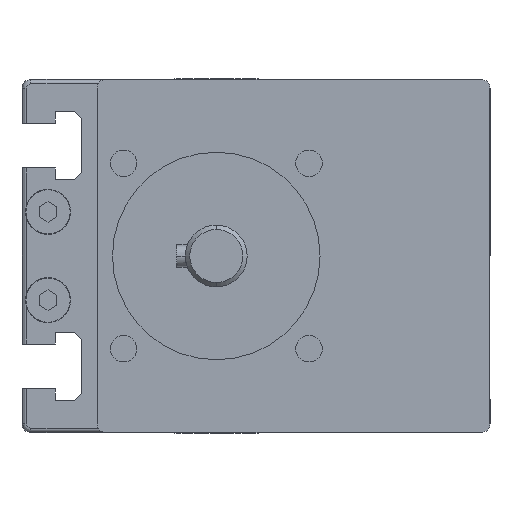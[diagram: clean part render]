
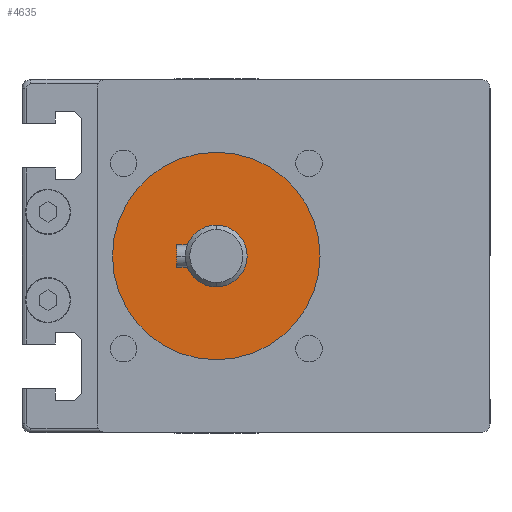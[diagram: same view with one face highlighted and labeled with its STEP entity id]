
A CAD part, left-side view. The second image highlights one B-rep face of the part: STEP entity #4635.
In plain terms, the highlighted planar face has unit normal (-1, 0, 0) as drawn and (1, 0, 0) by its records, which use the part's own axes.
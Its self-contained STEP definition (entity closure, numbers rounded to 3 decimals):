
#306 = PLANE ( 'NONE',  #4630 ) ;
#418 = CARTESIAN_POINT ( 'NONE',  ( -2., 0., 0. ) ) ;
#1428 = CIRCLE ( 'NONE', #8072, 23.5 ) ;
#1624 = VERTEX_POINT ( 'NONE', #7636 ) ;
#1814 = FACE_BOUND ( 'NONE', #8535, .T. ) ;
#1881 = CIRCLE ( 'NONE', #8551, 7. ) ;
#2269 = VERTEX_POINT ( 'NONE', #2500 ) ;
#2500 = CARTESIAN_POINT ( 'NONE',  ( -2., 0., -7. ) ) ;
#2974 = FACE_OUTER_BOUND ( 'NONE', #3819, .T. ) ;
#3054 = CIRCLE ( 'NONE', #6361, 7. ) ;
#3819 = EDGE_LOOP ( 'NONE', ( #6389, #6286 ) ) ;
#3860 = CARTESIAN_POINT ( 'NONE',  ( -2., 0., 23.5 ) ) ;
#4630 = AXIS2_PLACEMENT_3D ( 'NONE', #418, #6125, #6077 ) ;
#4635 = ADVANCED_FACE ( 'NONE', ( #2974, #1814 ), #306, .T. ) ;
#5336 = ORIENTED_EDGE ( 'NONE', *, *, #5655, .F. ) ;
#5495 = DIRECTION ( 'NONE',  ( 0., 0., -1. ) ) ;
#5503 = DIRECTION ( 'NONE',  ( 1., 0., 0. ) ) ;
#5655 = EDGE_CURVE ( 'NONE', #2269, #1624, #1881, .T. ) ;
#5746 = EDGE_CURVE ( 'NONE', #9116, #6163, #1428, .T. ) ;
#5846 = CARTESIAN_POINT ( 'NONE',  ( -2., 0., 0. ) ) ;
#5897 = DIRECTION ( 'NONE',  ( 0., 0., -1. ) ) ;
#5924 = DIRECTION ( 'NONE',  ( 1., 0., 0. ) ) ;
#5934 = CARTESIAN_POINT ( 'NONE',  ( -2., 0., 0. ) ) ;
#5958 = ORIENTED_EDGE ( 'NONE', *, *, #6171, .F. ) ;
#6077 = DIRECTION ( 'NONE',  ( 0., 0., -1. ) ) ;
#6110 = EDGE_CURVE ( 'NONE', #6163, #9116, #7613, .T. ) ;
#6125 = DIRECTION ( 'NONE',  ( 1., 0., 0. ) ) ;
#6163 = VERTEX_POINT ( 'NONE', #6192 ) ;
#6171 = EDGE_CURVE ( 'NONE', #1624, #2269, #3054, .T. ) ;
#6192 = CARTESIAN_POINT ( 'NONE',  ( -2., 0., -23.5 ) ) ;
#6286 = ORIENTED_EDGE ( 'NONE', *, *, #5746, .T. ) ;
#6361 = AXIS2_PLACEMENT_3D ( 'NONE', #5934, #5924, #5897 ) ;
#6389 = ORIENTED_EDGE ( 'NONE', *, *, #6110, .T. ) ;
#6671 = AXIS2_PLACEMENT_3D ( 'NONE', #7096, #7062, #7052 ) ;
#7052 = DIRECTION ( 'NONE',  ( 0., 0., -1. ) ) ;
#7062 = DIRECTION ( 'NONE',  ( 1., 0., 0. ) ) ;
#7096 = CARTESIAN_POINT ( 'NONE',  ( -2., 0., 0. ) ) ;
#7613 = CIRCLE ( 'NONE', #6671, 23.5 ) ;
#7636 = CARTESIAN_POINT ( 'NONE',  ( -2., 0., 7. ) ) ;
#8072 = AXIS2_PLACEMENT_3D ( 'NONE', #5846, #5503, #5495 ) ;
#8535 = EDGE_LOOP ( 'NONE', ( #5958, #5336 ) ) ;
#8551 = AXIS2_PLACEMENT_3D ( 'NONE', #9664, #9427, #9364 ) ;
#9116 = VERTEX_POINT ( 'NONE', #3860 ) ;
#9364 = DIRECTION ( 'NONE',  ( 0., 0., -1. ) ) ;
#9427 = DIRECTION ( 'NONE',  ( 1., 0., 0. ) ) ;
#9664 = CARTESIAN_POINT ( 'NONE',  ( -2., 0., 0. ) ) ;
